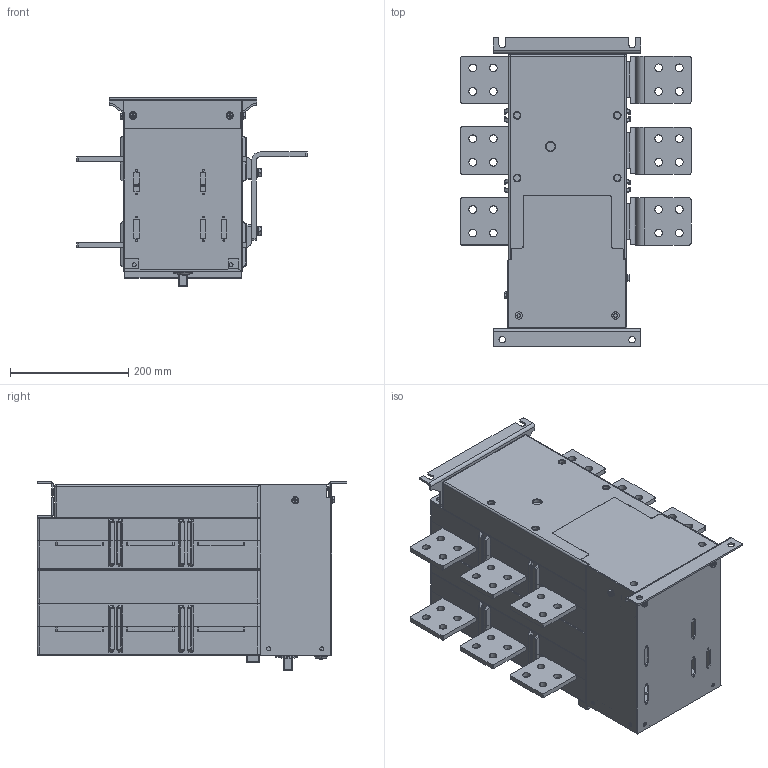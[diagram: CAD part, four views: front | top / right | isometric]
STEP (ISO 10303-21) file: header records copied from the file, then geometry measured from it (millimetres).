
FILE_DESCRIPTION((''),'2;1');
FILE_NAME('NH40-1600_3P_ASM_ASM','2020-11-02T',('shift'),(''),'CREO PARAMETRIC BY PTC INC, 2014500','CREO PARAMETRIC BY PTC INC, 2014500','');
FILE_SCHEMA(('AUTOMOTIVE_DESIGN { 1 0 10303 214 1 1 1 1 }'));
Products named in the file (22): 3P____-52496_4_1; 3P____-51977_2_1; 3P____-51963_2_1; 3P_________2_1; 3P____-52041_1_1; NH40-2000__3P____2019_5_25______ASM; ANZHUANGJIAO_1_1_1_1_1_1_1; SHANGBAN_2_1_1_1_1_1_1; HENGLIANG_1_1_1_1_1_1_1; DIJIAO_1_1_1_1_1_1_4_1; CEBANLUOSI_1_1_1_1_1_1_1; YAOSHI_1_1_1_1_1_1_1; HONGZHISHI_1_1_1_1_1_1_2_1_1; NH40-2000_3P_2019_5_25__ASM_4_A_ASM; NH40-2000_3P_ASM_1_ASM; CEBAN-1; CEBAN-2; CHUTOU-1; CHUTOU2; CHUTOU3; SHUCHUDUANLUOSIM8; NH40-1600_3P_ASM_ASM
Assembly tree (56 placements, depth 5):
  NH40-1600_3P_ASM_ASM
    NH40-2000_3P_ASM_1_ASM
      NH40-2000_3P_2019_5_25__ASM_4_A_ASM
        NH40-2000__3P____2019_5_25______ASM
          3P____-52496_4_1  x2
          3P____-51977_2_1  x2
          3P____-51963_2_1
          3P_________2_1
          3P____-52041_1_1
        ANZHUANGJIAO_1_1_1_1_1_1_1
        SHANGBAN_2_1_1_1_1_1_1
        HENGLIANG_1_1_1_1_1_1_1
        DIJIAO_1_1_1_1_1_1_4_1
        CEBANLUOSI_1_1_1_1_1_1_1  x5
        YAOSHI_1_1_1_1_1_1_1
        HONGZHISHI_1_1_1_1_1_1_2_1_1
    CEBAN-1
    CEBAN-2
    CHUTOU-1  x6
    CHUTOU2  x6
    CHUTOU3  x3
    SHUCHUDUANLUOSIM8  x18
Bounding box: 390.01 x 525.06 x 319.84 mm (x, y, z)
Volume: 22655353.6 mm3; surface area: 2342302.8 mm2
Topology: 53 solids, 61 shells, 3798 faces, 9520 edges, 6063 vertices
Faces by surface type: plane 1785, cylinder 1490, bspline 182, torus 171, extrusion 72, sphere 50, cone 48
Entity records: 80135 total; most frequent: CARTESIAN_POINT 19016, ORIENTED_EDGE 9638, DIRECTION 9579, EDGE_CURVE 4819, AXIS2_PLACEMENT_3D 3318, VERTEX_POINT 3074, VECTOR 2943, PRESENTATION_STYLE_ASSIGNMENT 2914
